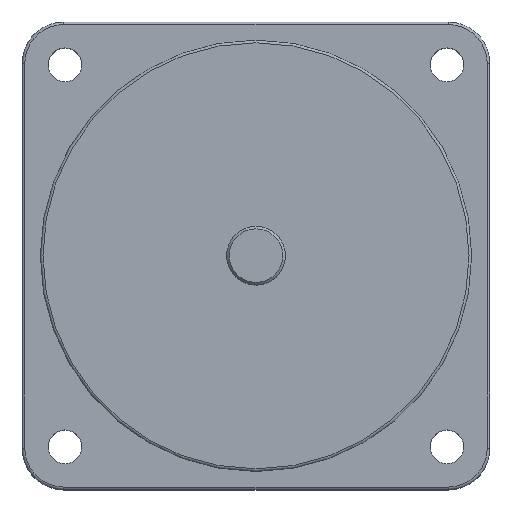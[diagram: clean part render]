
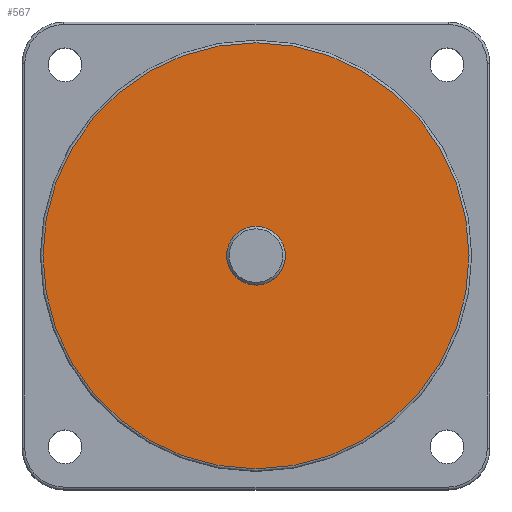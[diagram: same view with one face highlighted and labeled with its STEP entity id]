
A CAD part, top view. The second image highlights one B-rep face of the part: STEP entity #567.
In plain terms, the highlighted planar face has unit normal (0, 0, 1).
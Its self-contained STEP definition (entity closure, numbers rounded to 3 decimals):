
#513=CARTESIAN_POINT('',(41.,0.,42.0));
#514=VERTEX_POINT('',#513);
#515=CARTESIAN_POINT('',(0.0,0.0,42.0));
#516=DIRECTION('',(0.0,0.0,-1.0));
#517=DIRECTION('',(-1.0,0.0,0.0));
#518=AXIS2_PLACEMENT_3D('',#515,#516,#517);
#519=CIRCLE('',#518,41.);
#520=EDGE_CURVE('',#514,#514,#519,.T.);
#548=CARTESIAN_POINT('',(0.0,0.0,42.0));
#549=DIRECTION('',(0.0,0.0,-1.0));
#550=DIRECTION('',(-1.0,0.0,0.0));
#551=AXIS2_PLACEMENT_3D('',#548,#549,#550);
#552=PLANE('',#551);
#553=ORIENTED_EDGE('',*,*,#520,.F.);
#554=EDGE_LOOP('',(#553));
#555=FACE_OUTER_BOUND('',#554,.T.);
#556=CARTESIAN_POINT('',(5.65,0.,42.0));
#557=VERTEX_POINT('',#556);
#558=CARTESIAN_POINT('',(0.0,0.0,42.0));
#559=DIRECTION('',(0.0,0.0,-1.0));
#560=DIRECTION('',(-1.0,0.0,0.0));
#561=AXIS2_PLACEMENT_3D('',#558,#559,#560);
#562=CIRCLE('',#561,5.65);
#563=EDGE_CURVE('',#557,#557,#562,.T.);
#564=ORIENTED_EDGE('',*,*,#563,.T.);
#565=EDGE_LOOP('',(#564));
#566=FACE_BOUND('',#565,.T.);
#567=ADVANCED_FACE('',(#555,#566),#552,.F.);
